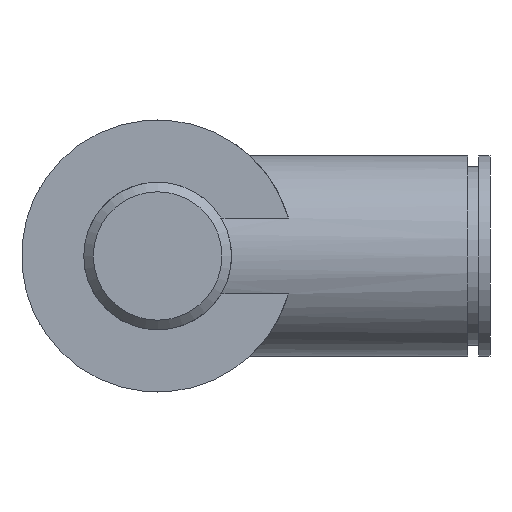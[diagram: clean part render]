
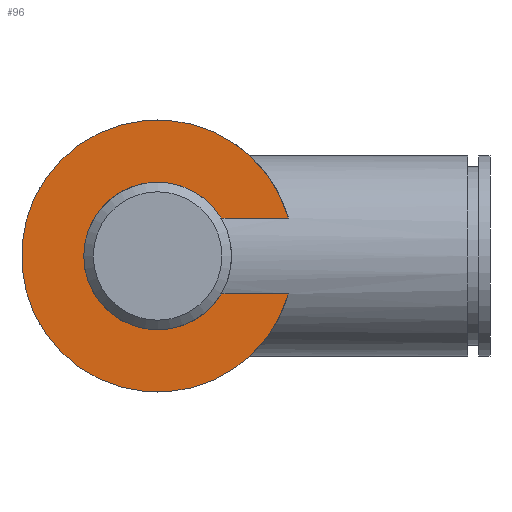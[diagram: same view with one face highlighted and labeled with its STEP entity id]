
A CAD part, front view. The second image highlights one B-rep face of the part: STEP entity #96.
In plain terms, the highlighted planar face has unit normal (0, -1, 0).
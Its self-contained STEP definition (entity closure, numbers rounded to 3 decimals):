
#96=ADVANCED_FACE('',(#158),#159,.F.);
#158=FACE_OUTER_BOUND('',#239,.T.);
#159=PLANE('',#240);
#239=EDGE_LOOP('',(#419,#420,#421,#422));
#240=AXIS2_PLACEMENT_3D('',#423,#424,#425);
#419=ORIENTED_EDGE('',*,*,#545,.F.);
#420=ORIENTED_EDGE('',*,*,#554,.T.);
#421=ORIENTED_EDGE('',*,*,#546,.F.);
#422=ORIENTED_EDGE('',*,*,#543,.F.);
#423=CARTESIAN_POINT('',(12.124,0.0,0.0));
#424=DIRECTION('',(-0.0,1.0,0.0));
#425=DIRECTION('',(1.0,0.0,0.0));
#543=EDGE_CURVE('',#633,#634,#636,.T.);
#545=EDGE_CURVE('',#639,#633,#640,.T.);
#546=EDGE_CURVE('',#634,#641,#642,.T.);
#554=EDGE_CURVE('',#639,#641,#654,.T.);
#633=VERTEX_POINT('',#839);
#634=VERTEX_POINT('',#840);
#636=CIRCLE('',#857,6.579);
#639=VERTEX_POINT('',#860);
#640=LINE('',#861,#862);
#641=VERTEX_POINT('',#863);
#642=LINE('',#864,#865);
#654=CIRCLE('',#944,12.124);
#839=CARTESIAN_POINT('',(5.642,0.,3.384));
#840=CARTESIAN_POINT('',(5.642,0.,-3.384));
#857=AXIS2_PLACEMENT_3D('',#1034,#1035,#1036);
#860=CARTESIAN_POINT('',(11.643,0.0,3.384));
#861=CARTESIAN_POINT('',(29.6,0.0,3.384));
#862=VECTOR('',#1040,1.0);
#863=CARTESIAN_POINT('',(11.643,0.0,-3.384));
#864=CARTESIAN_POINT('',(29.6,0.0,-3.384));
#865=VECTOR('',#1041,1.0);
#944=AXIS2_PLACEMENT_3D('',#1050,#1051,#1052);
#1034=CARTESIAN_POINT('',(0.0,0.0,0.0));
#1035=DIRECTION('',(0.0,-1.0,0.0));
#1036=DIRECTION('',(0.0,0.0,-1.0));
#1040=DIRECTION('',(-1.0,0.0,0.0));
#1041=DIRECTION('',(1.0,0.0,0.0));
#1050=CARTESIAN_POINT('',(0.0,0.0,0.0));
#1051=DIRECTION('',(0.0,-1.0,0.0));
#1052=DIRECTION('',(0.0,0.0,-1.0));
